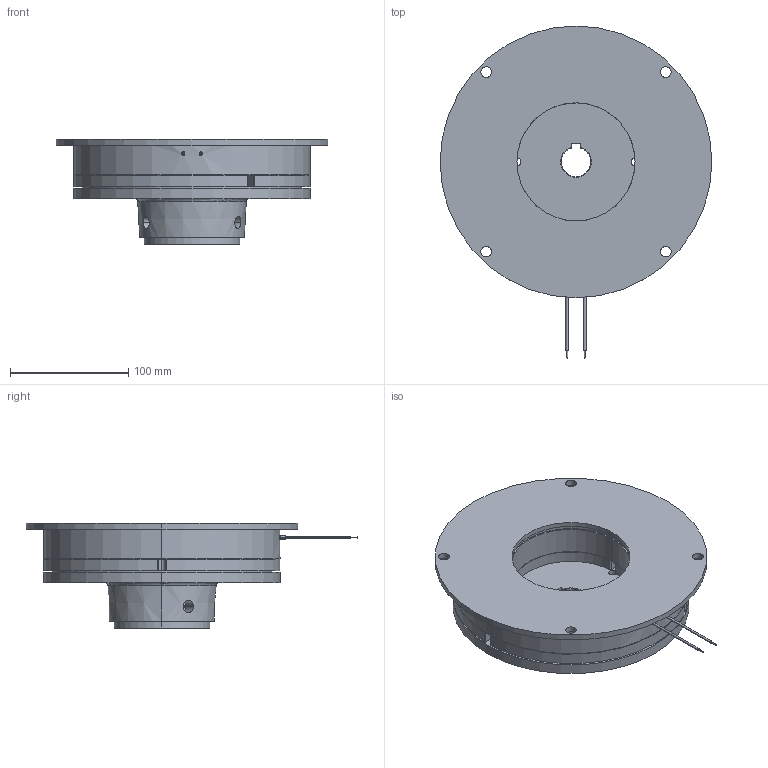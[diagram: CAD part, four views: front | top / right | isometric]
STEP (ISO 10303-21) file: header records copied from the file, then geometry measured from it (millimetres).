
FILE_DESCRIPTION (( 'STEP AP214' ), '1' );
FILE_NAME ('dr_bk_1102-130_mu.STEP', '2021-11-10T10:40:07', ( '' ), ( '' ), 'SwSTEP 2.0', 'SolidWorks 2019', '' );
FILE_SCHEMA (( 'AUTOMOTIVE_DESIGN' ));
Length unit declared in the file: millimetre
Products named in the file (11): 10068881_000; 10068879_000; 10068876_000; 10068703_000; 10068878_000_eingebaut in Ankerteil 11.02.030-0000; 10068887_000; 10068890_000_M 12 x 20; 10068878_000_eingebaut in Ankerteil 11.02.010-0009; 10068888_000; 10068877_000; dr_bk_1102-130_mu
Assembly tree (20 placements, depth 4):
  dr_bk_1102-130_mu
    10068703_000
    10068887_000
      10068888_000
      10068876_000
        10068877_000
        10068879_000
        10068878_000_eingebaut in Ankerteil 11.02.010-0009  x3
        10068881_000  x3
      10068881_000  x3
      10068878_000_eingebaut in Ankerteil 11.02.030-0000  x3
      10068890_000_M 12 x 20  x2
Bounding box: 230 x 281 x 89.55 mm (x, y, z)
Volume: 1480485.1 mm3; surface area: 284127.4 mm2
Topology: 20 solids, 20 shells, 390 faces, 915 edges, 568 vertices
Faces by surface type: cylinder 188, cone 92, plane 86, torus 12, sphere 12
Entity records: 9926 total; most frequent: CARTESIAN_POINT 1914, DIRECTION 1559, ORIENTED_EDGE 1294, EDGE_CURVE 647, AXIS2_PLACEMENT_3D 646, VERTEX_POINT 411, CIRCLE 352, EDGE_LOOP 344
